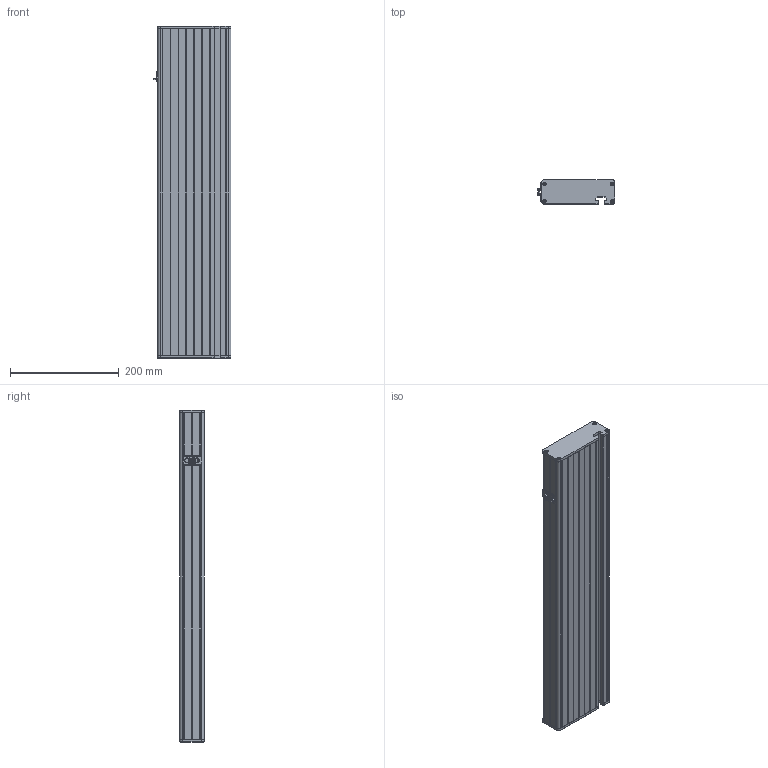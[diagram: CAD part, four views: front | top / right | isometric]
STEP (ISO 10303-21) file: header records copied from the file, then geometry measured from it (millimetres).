
FILE_DESCRIPTION (( 'STEP AP203' ), '1' );
FILE_NAME ('apx66_assam_V0.STEP', '2015-10-05T17:45:56', ( 'admin' ), ( '' ), 'SwSTEP 2.0', 'SolidWorks 2014', '' );
FILE_SCHEMA (( 'CONFIG_CONTROL_DESIGN' ));
Length unit declared in the file: millimetre
Products named in the file (1): apx66_assam_V0
Bounding box: 143.4 x 45 x 612 mm (x, y, z)
Surface area: 268489.8 mm2 (no closed solid volume)
Topology: 0 solids, 9 shells, 709 faces, 2614 edges, 1778 vertices
Faces by surface type: plane 456, cylinder 224, cone 23, torus 4, sphere 2
Entity records: 27461 total; most frequent: CARTESIAN_POINT 5247, DIRECTION 4874, ORIENTED_EDGE 3980, EDGE_CURVE 2610, VERTEX_POINT 1776, VECTOR 1676, LINE 1676, AXIS2_PLACEMENT_3D 1599
